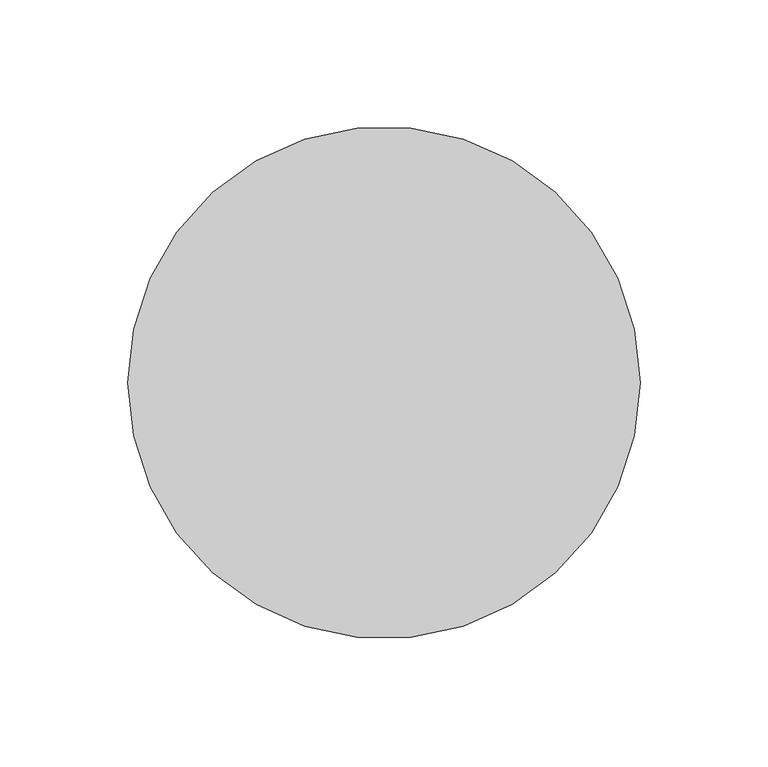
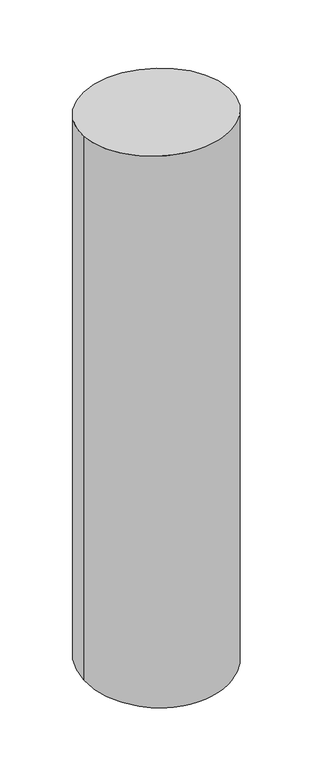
"""IFC4 building model written with IfcOpenShell, lengths in millimetres: member geometry, 矩形竖梃 : 圆瓦."""

from ifc_helpers import new_model, si_unit, frame, origin, origin_with_axes, place, context, project, spatial, ellipse_curve, source, transform, mapped, element, save
from ifc_brep_helpers import plane_surface, cylinder_surface, advanced_brep


def member_f944c00d(model_context):
    return source(origin(), model_context, "Body", "AdvancedBrep", [
        advanced_brep(
        [(-100.0, 0.0, 0.0), (100.0, 0.0, 0.0), (100.0, 0.0, -790.1124317), (-100.0, 0.0, -790.1124317)],
        [
            (0, 1, ellipse_curve(frame((0.0, 0.0, 0.0), z_axis=(0.0, -0.06767279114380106, -0.9977075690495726), x_axis=(0.0, -0.9977075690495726, 0.06767279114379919)), 100.2297698, 100.0)),
            (1, 2),
            (2, 3, ellipse_curve(frame((0.0, 0.0, -790.1124317), z_axis=(0.0, -0.06281746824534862, 0.998025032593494), x_axis=(0.0, 0.9980250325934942, 0.06281746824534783)), 100.1978876, 100.0)),
            (3, 0),
            (1, 0, ellipse_curve(frame((0.0, 0.0, 0.0), z_axis=(0.0, -0.06767279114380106, -0.9977075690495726), x_axis=(0.0, -0.9977075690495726, 0.06767279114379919)), 100.2297698, 100.0)),
            (3, 2, ellipse_curve(frame((0.0, 0.0, -790.1124317), z_axis=(0.0, -0.06281746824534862, 0.998025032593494), x_axis=(0.0, 0.9980250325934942, 0.06281746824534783)), 100.1978876, 100.0)),
        ],
        [
            cylinder_surface(origin_with_axes(), 100.0),
            plane_surface(frame((-304.8, 0.0, 0.0), z_axis=(0.0, 0.06767279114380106, 0.9977075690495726), x_axis=(0.0, 0.9977075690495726, -0.06767279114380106))),
            plane_surface(frame((-304.8, 0.0, -790.1124317), z_axis=(0.0, 0.06281746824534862, -0.998025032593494), x_axis=(0.0, 0.998025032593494, 0.06281746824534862))),
        ],
        [
            (0, [[1, 2, 3, 4]]),
            (0, [[5, -4, 6, -2]]),
            (1, [[-1, -5]]),
            (2, [[-6, -3]]),
        ],
    ),
    ])


if __name__ == "__main__":
    model = new_model("IFC4")
    model_context = context("Model", 3, world=origin())
    ifc_project = project(units=[si_unit("LENGTHUNIT", "METRE", prefix="MILLI")], contexts=[model_context])
    site = spatial("IfcSite", under=ifc_project)
    building = spatial("IfcBuilding", under=site)
    placement = place(None, origin())
    member_shape = member_f944c00d(model_context)
    element("IfcMember", 1, ObjectType="矩形竖梃 : 圆瓦", at=placement, inside=building, context=model_context, shape_type="MappedRepresentation", body=[
        mapped(member_shape, transform((0.0, 0.0, 0.0), x_axis=(1.0, 0.0, 0.0), y_axis=(0.0, 1.0, 0.0), z_axis=(0.0, 0.0, 1.0))),
    ])
    save(model, "model.ifc")
